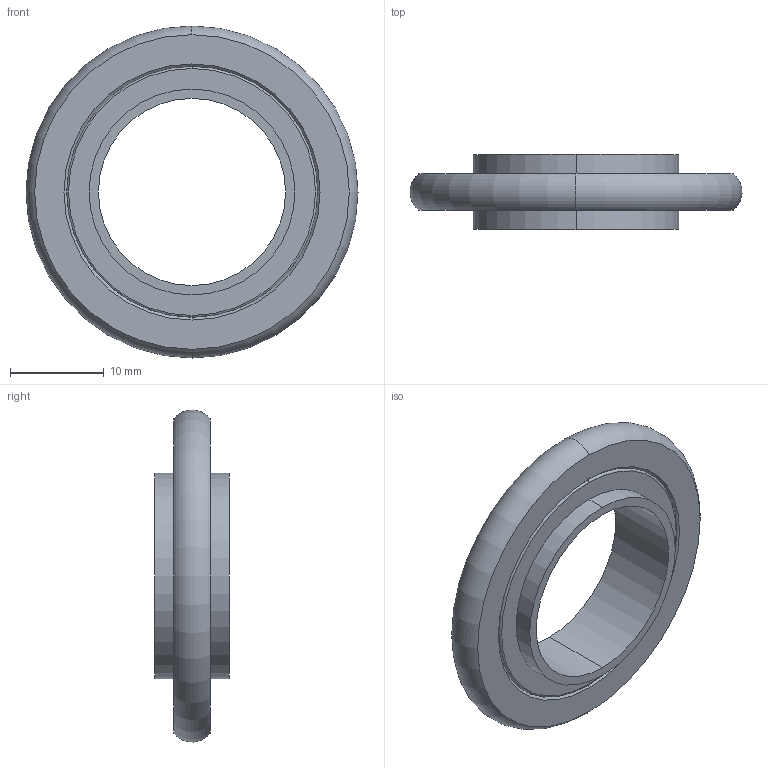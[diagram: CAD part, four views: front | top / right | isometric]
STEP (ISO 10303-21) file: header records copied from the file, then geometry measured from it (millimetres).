
FILE_DESCRIPTION((''),'2;1');
FILE_NAME('18202-SW0001','2016-03-04T',('l0100062'),('Copyright by Leybold GmbH'),'PRO/ENGINEER BY PARAMETRIC TECHNOLOGY CORPORATION, 2015280','PRO/ENGINEER BY PARAMETRIC TECHNOLOGY CORPORATION, 2015280','');
FILE_SCHEMA(('AUTOMOTIVE_DESIGN { 1 0 10303 214 1 1 1 1 }'));
Length unit declared in the file: millimetre
Products named in the file (1): 18202-DAO_SW0001
Bounding box: 35.48 x 8 x 35.48 mm (x, y, z)
Volume: 2775.8 mm3; surface area: 2497.7 mm2
Topology: 1 solids, 1 shells, 22 faces, 44 edges, 28 vertices
Faces by surface type: torus 10, cylinder 6, plane 6
Entity records: 848 total; most frequent: DIRECTION 126, CARTESIAN_POINT 96, ORIENTED_EDGE 88, AXIS2_PLACEMENT_3D 60, COLOUR_RGB 46, EDGE_CURVE 44, CIRCLE 38, VERTEX_POINT 28
